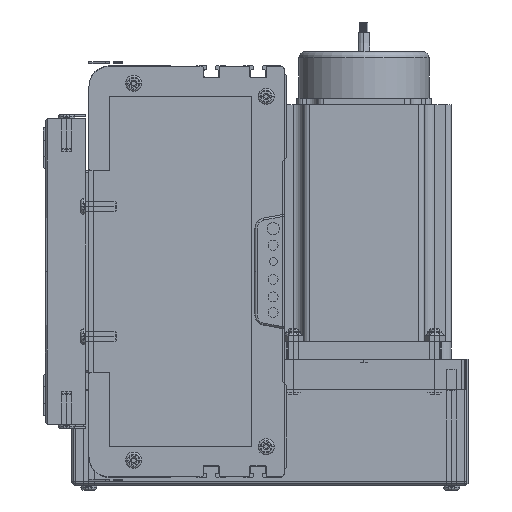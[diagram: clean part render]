
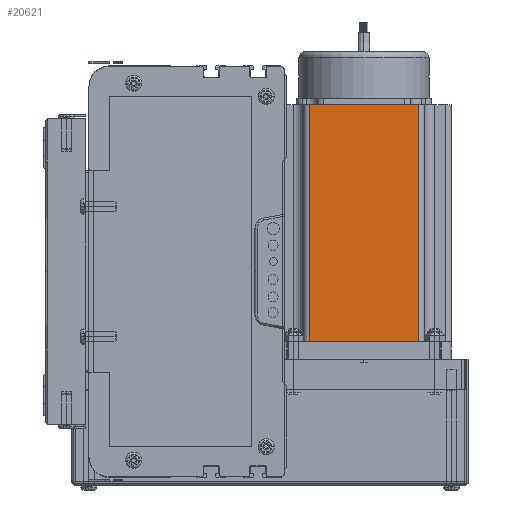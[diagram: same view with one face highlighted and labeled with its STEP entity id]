
A CAD part, left-side view. The second image highlights one B-rep face of the part: STEP entity #20621.
In plain terms, the highlighted planar face has unit normal (-1, 0, 0) as drawn and (0, -1, 0) by its records, which use the part's own axes.
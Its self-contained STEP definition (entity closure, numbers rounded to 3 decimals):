
#14356 = CARTESIAN_POINT ( 'NONE',  ( 0., 0., 116.5 ) ) ;
#14357 = LINE ( 'NONE', #14356, #14373 ) ;
#14373 = VECTOR ( 'NONE', #14472, 1000. ) ;
#14422 = CARTESIAN_POINT ( 'NONE',  ( 69.74, 0., 116.5 ) ) ;
#14426 = DIRECTION ( 'NONE',  ( 0., 0., -1. ) ) ;
#14428 = VECTOR ( 'NONE', #14426, 1000. ) ;
#14449 = LINE ( 'NONE', #14462, #14428 ) ;
#14459 = CARTESIAN_POINT ( 'NONE',  ( 16.16, 0., 116.5 ) ) ;
#14462 = CARTESIAN_POINT ( 'NONE',  ( 16.16, 0., 116.5 ) ) ;
#14472 = DIRECTION ( 'NONE',  ( 1., 0., 0. ) ) ;
#14616 = CARTESIAN_POINT ( 'NONE',  ( 69.74, 0., 0. ) ) ;
#15012 = FACE_OUTER_BOUND ( 'NONE', #20467, .T. ) ;
#15019 = PLANE ( 'NONE',  #15168 ) ;
#15154 = DIRECTION ( 'NONE',  ( 0., 0., 1. ) ) ;
#15155 = DIRECTION ( 'NONE',  ( 0., 1., 0. ) ) ;
#15157 = CARTESIAN_POINT ( 'NONE',  ( 0., 0., 116.5 ) ) ;
#15168 = AXIS2_PLACEMENT_3D ( 'NONE', #15157, #15155, #15154 ) ;
#15195 = CARTESIAN_POINT ( 'NONE',  ( 69.74, 0., 116.5 ) ) ;
#15197 = LINE ( 'NONE', #15195, #15336 ) ;
#15320 = DIRECTION ( 'NONE',  ( 1., 0., 0. ) ) ;
#15322 = VECTOR ( 'NONE', #15320, 1000. ) ;
#15325 = CARTESIAN_POINT ( 'NONE',  ( 0., 0., 0. ) ) ;
#15331 = LINE ( 'NONE', #15325, #15322 ) ;
#15334 = DIRECTION ( 'NONE',  ( 0., 0., 1. ) ) ;
#15336 = VECTOR ( 'NONE', #15334, 1000. ) ;
#15480 = CARTESIAN_POINT ( 'NONE',  ( 16.16, 0., 0. ) ) ;
#20193 = EDGE_CURVE ( 'NONE', #20295, #20418, #14357, .T. ) ;
#20291 = ORIENTED_EDGE ( 'NONE', *, *, #20193, .F. ) ;
#20293 = EDGE_CURVE ( 'NONE', #20295, #20800, #14449, .T. ) ;
#20295 = VERTEX_POINT ( 'NONE', #14459 ) ;
#20418 = VERTEX_POINT ( 'NONE', #14422 ) ;
#20434 = VERTEX_POINT ( 'NONE', #14616 ) ;
#20467 = EDGE_LOOP ( 'NONE', ( #20705, #20704, #20291, #20618 ) ) ;
#20618 = ORIENTED_EDGE ( 'NONE', *, *, #20293, .T. ) ;
#20621 = ADVANCED_FACE ( 'NONE', ( #15012 ), #15019, .F. ) ;
#20704 = ORIENTED_EDGE ( 'NONE', *, *, #20707, .T. ) ;
#20705 = ORIENTED_EDGE ( 'NONE', *, *, #20709, .T. ) ;
#20707 = EDGE_CURVE ( 'NONE', #20434, #20418, #15197, .T. ) ;
#20709 = EDGE_CURVE ( 'NONE', #20800, #20434, #15331, .T. ) ;
#20800 = VERTEX_POINT ( 'NONE', #15480 ) ;
